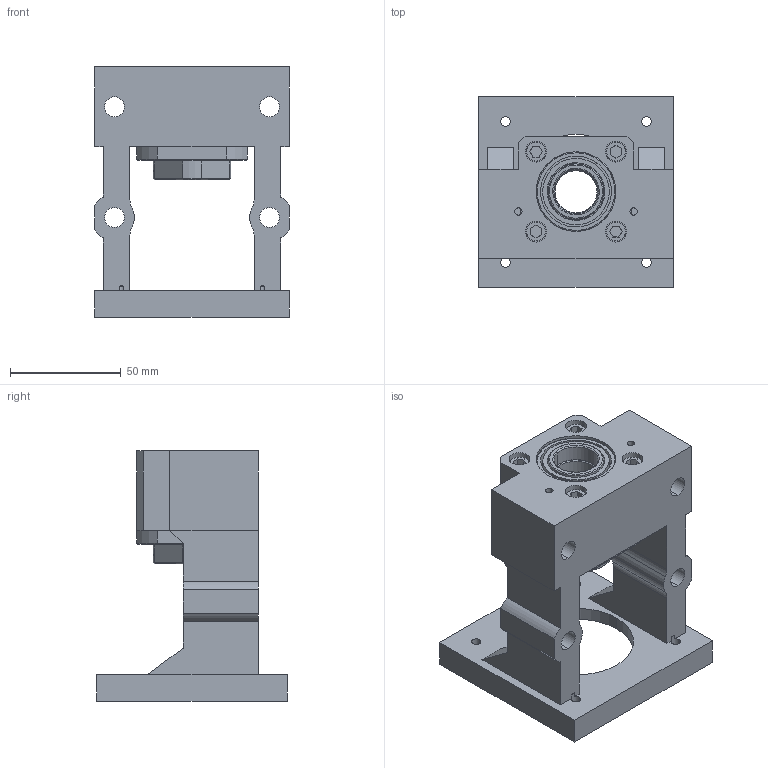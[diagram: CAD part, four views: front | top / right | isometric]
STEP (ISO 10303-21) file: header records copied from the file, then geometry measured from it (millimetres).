
FILE_DESCRIPTION (( 'STEP AP203' ), '1' );
FILE_NAME ('MBCA20-EP²Õ¦X¥ó.STEP', '2025-09-15T03:04:36', ( '' ), ( '' ), 'SwSTEP 2.0', 'SolidWorks 2018', '' );
FILE_SCHEMA (( 'CONFIG_CONTROL_DESIGN' ));
Length unit declared in the file: millimetre
Products named in the file (2): MBCA20-EP組合件
Bounding box: 88 x 86 x 113 mm (x, y, z)
Surface area: 64446.2 mm2 (no closed solid volume)
Topology: 0 solids, 15 shells, 249 faces, 654 edges, 425 vertices
Faces by surface type: plane 103, cylinder 100, cone 30, torus 12, bspline 4
Entity records: 8213 total; most frequent: CARTESIAN_POINT 1752, DIRECTION 1385, ORIENTED_EDGE 1207, EDGE_CURVE 654, AXIS2_PLACEMENT_3D 526, VERTEX_POINT 425, LINE 333, VECTOR 333
